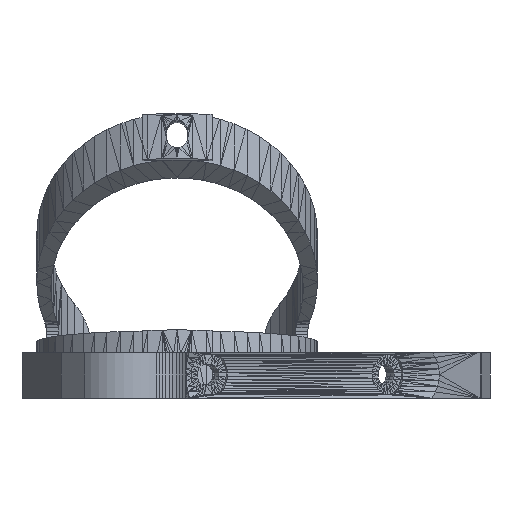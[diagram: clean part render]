
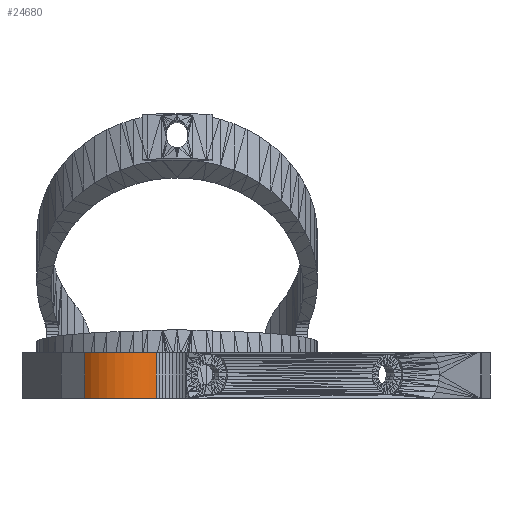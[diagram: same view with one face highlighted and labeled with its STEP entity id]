
A CAD part, left-side view. The second image highlights one B-rep face of the part: STEP entity #24680.
In plain terms, the highlighted cylindrical face has radius 14.908 mm (diameter 29.816 mm), a partial arc.
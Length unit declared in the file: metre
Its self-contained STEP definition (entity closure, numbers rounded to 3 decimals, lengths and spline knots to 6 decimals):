
#41=CYLINDRICAL_SURFACE('',#26478,0.014908);
#261=CIRCLE('',#25984,0.014908);
#264=CIRCLE('',#25988,0.014908);
#2303=ORIENTED_EDGE('',*,*,#7651,.F.);
#2304=ORIENTED_EDGE('',*,*,#7482,.T.);
#2305=ORIENTED_EDGE('',*,*,#8369,.T.);
#2306=ORIENTED_EDGE('',*,*,#7467,.F.);
#7467=EDGE_CURVE('',#10887,#10888,#261,.T.);
#7482=EDGE_CURVE('',#10902,#10901,#264,.F.);
#7651=EDGE_CURVE('',#10902,#10887,#12807,.T.);
#8369=EDGE_CURVE('',#10901,#10888,#13516,.T.);
#10887=VERTEX_POINT('',#35077);
#10888=VERTEX_POINT('',#35079);
#10901=VERTEX_POINT('',#35161);
#10902=VERTEX_POINT('',#35163);
#12807=LINE('',#35499,#16040);
#13516=LINE('',#36944,#16749);
#16040=VECTOR('',#28368,1.);
#16749=VECTOR('',#29981,1.);
#19395=EDGE_LOOP('',(#2303,#2304,#2305,#2306));
#21162=FACE_BOUND('',#19395,.T.);
#24680=ADVANCED_FACE('',(#21162),#41,.T.);
#25984=AXIS2_PLACEMENT_3D('',#35078,#28108,#28109);
#25988=AXIS2_PLACEMENT_3D('',#35162,#28124,#28125);
#26478=AXIS2_PLACEMENT_3D('',#36943,#29979,#29980);
#28108=DIRECTION('',(0.,0.,-1.));
#28109=DIRECTION('',(-1.,0.,0.));
#28124=DIRECTION('',(0.,0.,1.));
#28125=DIRECTION('',(0.,-1.,0.));
#28368=DIRECTION('',(0.,0.,-1.));
#29979=DIRECTION('',(0.,0.,-1.));
#29980=DIRECTION('',(-1.,0.,0.));
#29981=DIRECTION('',(0.,0.,-1.));
#35077=CARTESIAN_POINT('',(-0.052762,0.030689,0.));
#35078=CARTESIAN_POINT('',(-0.041382,0.04032,0.));
#35079=CARTESIAN_POINT('',(-0.051601,0.051175,0.));
#35161=CARTESIAN_POINT('',(-0.051601,0.051175,0.013));
#35162=CARTESIAN_POINT('',(-0.041382,0.04032,0.013));
#35163=CARTESIAN_POINT('',(-0.052762,0.030689,0.013));
#35499=CARTESIAN_POINT('',(-0.052762,0.030689,0.0135));
#36943=CARTESIAN_POINT('',(-0.041382,0.04032,0.013002));
#36944=CARTESIAN_POINT('',(-0.051601,0.051175,0.013002));
